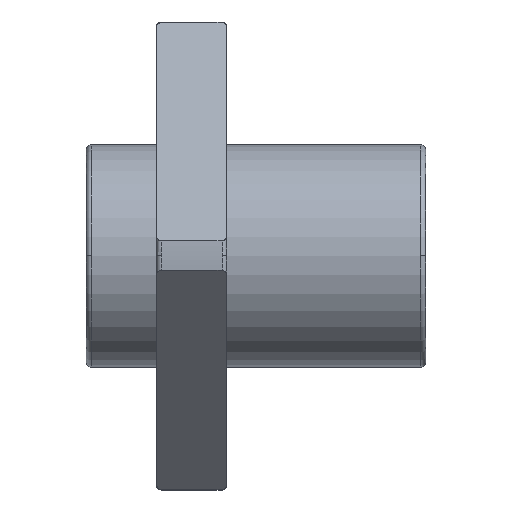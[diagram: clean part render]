
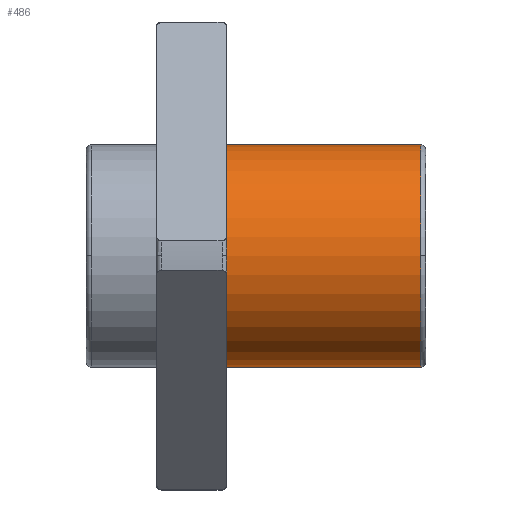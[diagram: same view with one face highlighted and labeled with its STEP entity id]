
A CAD part, top view. The second image highlights one B-rep face of the part: STEP entity #486.
In plain terms, the highlighted cylindrical face has radius 9.5 mm (diameter 19 mm), a partial arc.
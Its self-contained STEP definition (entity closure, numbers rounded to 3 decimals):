
#335 = TOROIDAL_SURFACE('',#336,9.1,0.4);
#336 = AXIS2_PLACEMENT_3D('',#337,#338,#339);
#337 = CARTESIAN_POINT('',(28.6,0.,0.));
#338 = DIRECTION('',(1.,0.,0.));
#339 = DIRECTION('',(0.,0.,-1.));
#347 = TOROIDAL_SURFACE('',#348,9.1,0.4);
#348 = AXIS2_PLACEMENT_3D('',#349,#350,#351);
#349 = CARTESIAN_POINT('',(28.6,0.,0.));
#350 = DIRECTION('',(1.,0.,0.));
#351 = DIRECTION('',(0.,0.,-1.));
#360 = VERTEX_POINT('',#361);
#361 = CARTESIAN_POINT('',(28.6,9.5,0.));
#376 = CYLINDRICAL_SURFACE('',#377,9.5);
#377 = AXIS2_PLACEMENT_3D('',#378,#379,#380);
#378 = CARTESIAN_POINT('',(20.3,0.,0.));
#379 = DIRECTION('',(1.,0.,0.));
#380 = DIRECTION('',(-0.,1.,0.));
#388 = EDGE_CURVE('',#360,#389,#391,.T.);
#389 = VERTEX_POINT('',#390);
#390 = CARTESIAN_POINT('',(28.6,0.,9.5));
#391 = SURFACE_CURVE('',#392,(#397,#404),.PCURVE_S1.);
#392 = CIRCLE('',#393,9.5);
#393 = AXIS2_PLACEMENT_3D('',#394,#395,#396);
#394 = CARTESIAN_POINT('',(28.6,0.,0.));
#395 = DIRECTION('',(1.,0.,0.));
#396 = DIRECTION('',(-0.,1.,0.));
#397 = PCURVE('',#335,#398);
#398 = DEFINITIONAL_REPRESENTATION('',(#399),#403);
#399 = LINE('',#400,#401);
#400 = CARTESIAN_POINT('',(1.571,0.));
#401 = VECTOR('',#402,1.);
#402 = DIRECTION('',(1.,0.));
#403 = ( GEOMETRIC_REPRESENTATION_CONTEXT(2) 
PARAMETRIC_REPRESENTATION_CONTEXT() REPRESENTATION_CONTEXT('2D SPACE',''
  ) );
#404 = PCURVE('',#405,#410);
#405 = CYLINDRICAL_SURFACE('',#406,9.5);
#406 = AXIS2_PLACEMENT_3D('',#407,#408,#409);
#407 = CARTESIAN_POINT('',(20.3,0.,0.));
#408 = DIRECTION('',(1.,0.,0.));
#409 = DIRECTION('',(-0.,1.,0.));
#410 = DEFINITIONAL_REPRESENTATION('',(#411),#415);
#411 = LINE('',#412,#413);
#412 = CARTESIAN_POINT('',(0.,8.3));
#413 = VECTOR('',#414,1.);
#414 = DIRECTION('',(1.,0.));
#415 = ( GEOMETRIC_REPRESENTATION_CONTEXT(2) 
PARAMETRIC_REPRESENTATION_CONTEXT() REPRESENTATION_CONTEXT('2D SPACE',''
  ) );
#486 = ADVANCED_FACE('',(#487),#405,.T.);
#487 = FACE_BOUND('',#488,.T.);
#488 = EDGE_LOOP('',(#489,#512,#541,#564,#586));
#489 = ORIENTED_EDGE('',*,*,#490,.F.);
#490 = EDGE_CURVE('',#491,#360,#493,.T.);
#491 = VERTEX_POINT('',#492);
#492 = CARTESIAN_POINT('',(12.,9.5,0.));
#493 = SURFACE_CURVE('',#494,(#498,#505),.PCURVE_S1.);
#494 = LINE('',#495,#496);
#495 = CARTESIAN_POINT('',(20.3,9.5,0.));
#496 = VECTOR('',#497,1.);
#497 = DIRECTION('',(1.,0.,0.));
#498 = PCURVE('',#405,#499);
#499 = DEFINITIONAL_REPRESENTATION('',(#500),#504);
#500 = LINE('',#501,#502);
#501 = CARTESIAN_POINT('',(0.,0.));
#502 = VECTOR('',#503,1.);
#503 = DIRECTION('',(0.,1.));
#504 = ( GEOMETRIC_REPRESENTATION_CONTEXT(2) 
PARAMETRIC_REPRESENTATION_CONTEXT() REPRESENTATION_CONTEXT('2D SPACE',''
  ) );
#505 = PCURVE('',#376,#506);
#506 = DEFINITIONAL_REPRESENTATION('',(#507),#511);
#507 = LINE('',#508,#509);
#508 = CARTESIAN_POINT('',(6.283,0.));
#509 = VECTOR('',#510,1.);
#510 = DIRECTION('',(0.,1.));
#511 = ( GEOMETRIC_REPRESENTATION_CONTEXT(2) 
PARAMETRIC_REPRESENTATION_CONTEXT() REPRESENTATION_CONTEXT('2D SPACE',''
  ) );
#512 = ORIENTED_EDGE('',*,*,#513,.T.);
#513 = EDGE_CURVE('',#491,#514,#516,.T.);
#514 = VERTEX_POINT('',#515);
#515 = CARTESIAN_POINT('',(12.,-9.5,0.));
#516 = SURFACE_CURVE('',#517,(#522,#529),.PCURVE_S1.);
#517 = CIRCLE('',#518,9.5);
#518 = AXIS2_PLACEMENT_3D('',#519,#520,#521);
#519 = CARTESIAN_POINT('',(12.,0.,0.));
#520 = DIRECTION('',(1.,0.,0.));
#521 = DIRECTION('',(-0.,1.,0.));
#522 = PCURVE('',#405,#523);
#523 = DEFINITIONAL_REPRESENTATION('',(#524),#528);
#524 = LINE('',#525,#526);
#525 = CARTESIAN_POINT('',(0.,-8.3));
#526 = VECTOR('',#527,1.);
#527 = DIRECTION('',(1.,0.));
#528 = ( GEOMETRIC_REPRESENTATION_CONTEXT(2) 
PARAMETRIC_REPRESENTATION_CONTEXT() REPRESENTATION_CONTEXT('2D SPACE',''
  ) );
#529 = PCURVE('',#530,#535);
#530 = PLANE('',#531);
#531 = AXIS2_PLACEMENT_3D('',#532,#533,#534);
#532 = CARTESIAN_POINT('',(12.,14.55,0.));
#533 = DIRECTION('',(1.,0.,0.));
#534 = DIRECTION('',(0.,1.,0.));
#535 = DEFINITIONAL_REPRESENTATION('',(#536),#540);
#536 = CIRCLE('',#537,9.5);
#537 = AXIS2_PLACEMENT_2D('',#538,#539);
#538 = CARTESIAN_POINT('',(-14.55,0.));
#539 = DIRECTION('',(1.,0.));
#540 = ( GEOMETRIC_REPRESENTATION_CONTEXT(2) 
PARAMETRIC_REPRESENTATION_CONTEXT() REPRESENTATION_CONTEXT('2D SPACE',''
  ) );
#541 = ORIENTED_EDGE('',*,*,#542,.F.);
#542 = EDGE_CURVE('',#543,#514,#545,.T.);
#543 = VERTEX_POINT('',#544);
#544 = CARTESIAN_POINT('',(28.6,-9.5,0.));
#545 = SURFACE_CURVE('',#546,(#550,#557),.PCURVE_S1.);
#546 = LINE('',#547,#548);
#547 = CARTESIAN_POINT('',(20.3,-9.5,0.));
#548 = VECTOR('',#549,1.);
#549 = DIRECTION('',(-1.,-0.,-0.));
#550 = PCURVE('',#405,#551);
#551 = DEFINITIONAL_REPRESENTATION('',(#552),#556);
#552 = LINE('',#553,#554);
#553 = CARTESIAN_POINT('',(3.142,0.));
#554 = VECTOR('',#555,1.);
#555 = DIRECTION('',(0.,-1.));
#556 = ( GEOMETRIC_REPRESENTATION_CONTEXT(2) 
PARAMETRIC_REPRESENTATION_CONTEXT() REPRESENTATION_CONTEXT('2D SPACE',''
  ) );
#557 = PCURVE('',#376,#558);
#558 = DEFINITIONAL_REPRESENTATION('',(#559),#563);
#559 = LINE('',#560,#561);
#560 = CARTESIAN_POINT('',(3.142,0.));
#561 = VECTOR('',#562,1.);
#562 = DIRECTION('',(0.,-1.));
#563 = ( GEOMETRIC_REPRESENTATION_CONTEXT(2) 
PARAMETRIC_REPRESENTATION_CONTEXT() REPRESENTATION_CONTEXT('2D SPACE',''
  ) );
#564 = ORIENTED_EDGE('',*,*,#565,.F.);
#565 = EDGE_CURVE('',#389,#543,#566,.T.);
#566 = SURFACE_CURVE('',#567,(#572,#579),.PCURVE_S1.);
#567 = CIRCLE('',#568,9.5);
#568 = AXIS2_PLACEMENT_3D('',#569,#570,#571);
#569 = CARTESIAN_POINT('',(28.6,0.,0.));
#570 = DIRECTION('',(1.,0.,0.));
#571 = DIRECTION('',(-0.,1.,0.));
#572 = PCURVE('',#405,#573);
#573 = DEFINITIONAL_REPRESENTATION('',(#574),#578);
#574 = LINE('',#575,#576);
#575 = CARTESIAN_POINT('',(0.,8.3));
#576 = VECTOR('',#577,1.);
#577 = DIRECTION('',(1.,0.));
#578 = ( GEOMETRIC_REPRESENTATION_CONTEXT(2) 
PARAMETRIC_REPRESENTATION_CONTEXT() REPRESENTATION_CONTEXT('2D SPACE',''
  ) );
#579 = PCURVE('',#347,#580);
#580 = DEFINITIONAL_REPRESENTATION('',(#581),#585);
#581 = LINE('',#582,#583);
#582 = CARTESIAN_POINT('',(1.571,0.));
#583 = VECTOR('',#584,1.);
#584 = DIRECTION('',(1.,0.));
#585 = ( GEOMETRIC_REPRESENTATION_CONTEXT(2) 
PARAMETRIC_REPRESENTATION_CONTEXT() REPRESENTATION_CONTEXT('2D SPACE',''
  ) );
#586 = ORIENTED_EDGE('',*,*,#388,.F.);
